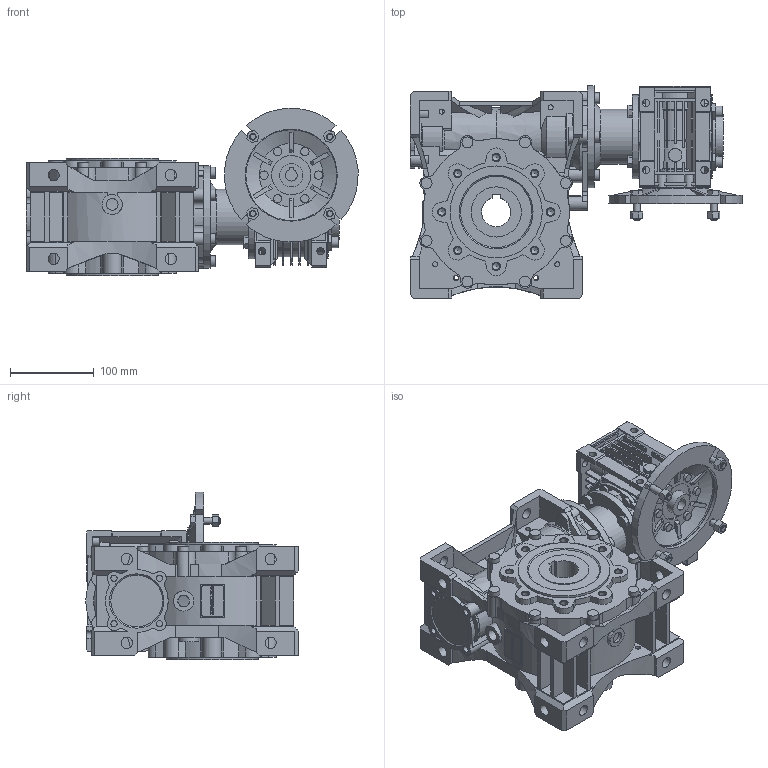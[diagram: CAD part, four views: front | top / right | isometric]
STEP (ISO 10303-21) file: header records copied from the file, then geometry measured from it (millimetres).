
FILE_DESCRIPTION(/* description */ ('STEP AP214'),/* implementation_level */ '2;1');
FILE_NAME(/* name */ 'NMRVP-NMRVP 050-090 100 (10x10) PS1 160x14 25 NO 35 NO NO - - NO - - - NO NO - --(--------)',/* time_stamp */ '2024-10-24T14:32:47+02:00',/* author */ ('License CC BY-ND 4.0'),/* organization */ ('CADENAS'),/* preprocessor_version */ 'ST-DEVELOPER v19.3',/* originating_system */ 'PARTsolutions',/* authorisation */ ' ');
FILE_SCHEMA (('AUTOMOTIVE_DESIGN {1 0 10303 214 3 1 1}'));
Products named in the file (11): NMRVP-NMRVP 050-090 100 (10x10) PS1 160x14 25 NO 35 NO NO - - NO - - 
- NO NO - --(--------); W.090.01.M; 090-35 (140); W.090.14.24.M-p; 050-090-TRA; W.050.01.M; 050-25 (92); VB 050-14 (14)-p; 5071 B5; Corona 50-p; 90-50
Assembly tree (10 placements, depth 2):
  NMRVP-NMRVP 050-090 100 (10x10) PS1 160x14 25 NO 35 NO NO - - NO - - 
- NO NO - --(--------)
    W.090.01.M
    090-35 (140)
    W.090.14.24.M-p
    050-090-TRA
    W.050.01.M
    050-25 (92)
    VB 050-14 (14)-p
    5071 B5
    Corona 50-p
    90-50
Bounding box: 396.77 x 254 x 199.77 mm (x, y, z)
Volume: 5822504.5 mm3; surface area: 795423.2 mm2
Topology: 10 solids, 17 shells, 2238 faces, 6023 edges, 3967 vertices
Faces by surface type: plane 1350, cylinder 732, cone 152, torus 4
Full cylindrical faces by diameter (mm): 3.775 x3, 5.55 x4, 6 x12, 6.647 x8, 7.45 x12, 8 x8, 8.376 x16, 8.8 x8, 10 x14, 13 x18, 13.4 x14, 14 x4, 16 x1, 24 x2, 28 x2, 29 x1, 31 x1, 34 x1, 40 x2, 45 x1, 47 x2, 50 x3, 55 x1, 58 x1, 60 x1, 66 x1, 70 x3, 75 x2, 76 x1, 90 x2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
Entity records: 84722 total; most frequent: CARTESIAN_POINT 13281, DIRECTION 11654, ORIENTED_EDGE 11444, EDGE_CURVE 5722, AXIS2_PLACEMENT_3D 4082, VERTEX_POINT 3916, LINE 3490, VECTOR 3490
